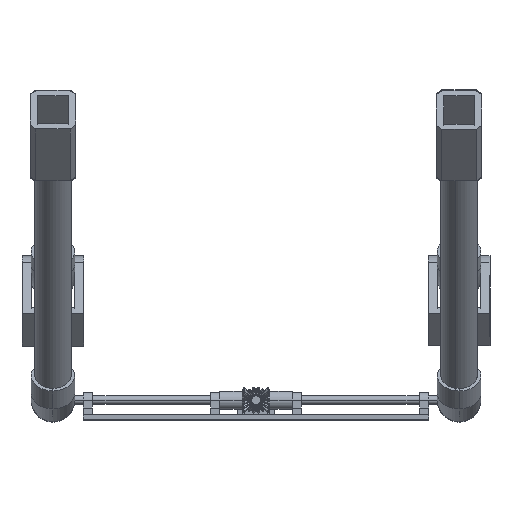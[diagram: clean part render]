
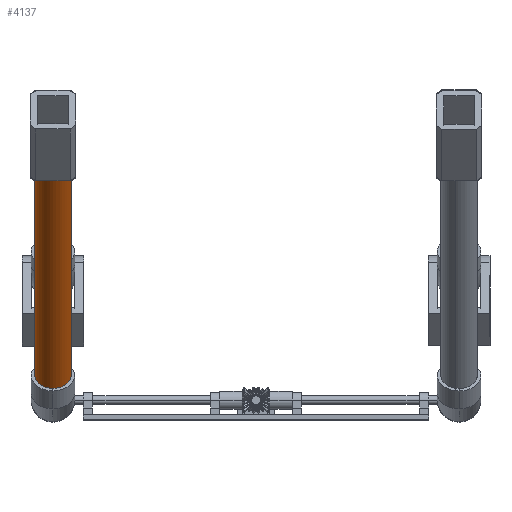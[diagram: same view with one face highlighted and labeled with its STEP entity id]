
A CAD part, top view. The second image highlights one B-rep face of the part: STEP entity #4137.
In plain terms, the highlighted cylindrical face has radius 25.4 mm (diameter 50.8 mm), a partial arc.
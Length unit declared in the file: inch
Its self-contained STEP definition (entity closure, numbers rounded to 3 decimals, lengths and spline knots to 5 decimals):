
#97 = EDGE_CURVE ( 'NONE', #2165, #9560, #5538, .T. ) ;
#471 = DIRECTION ( 'NONE',  ( 0., 0., 1. ) ) ;
#518 = CARTESIAN_POINT ( 'NONE',  ( 0., 0., 1. ) ) ;
#1006 = CARTESIAN_POINT ( 'NONE',  ( 0., 18., 1. ) ) ;
#1413 = ORIENTED_EDGE ( 'NONE', *, *, #97, .T. ) ;
#1491 = VERTEX_POINT ( 'NONE', #7098 ) ;
#2165 = VERTEX_POINT ( 'NONE', #10902 ) ;
#2602 = EDGE_CURVE ( 'NONE', #4722, #9560, #7334, .T. ) ;
#2770 = ORIENTED_EDGE ( 'NONE', *, *, #5477, .T. ) ;
#2821 = ORIENTED_EDGE ( 'NONE', *, *, #6804, .F. ) ;
#3964 = CARTESIAN_POINT ( 'NONE',  ( 0., 0., 0. ) ) ;
#4130 = DIRECTION ( 'NONE',  ( 0., -1., 0. ) ) ;
#4137 = ADVANCED_FACE ( 'NONE', ( #5009 ), #6892, .T. ) ;
#4454 = AXIS2_PLACEMENT_3D ( 'NONE', #7919, #10690, #5247 ) ;
#4722 = VERTEX_POINT ( 'NONE', #4853 ) ;
#4853 = CARTESIAN_POINT ( 'NONE',  ( 0., 18., 1. ) ) ;
#5009 = FACE_OUTER_BOUND ( 'NONE', #5532, .T. ) ;
#5247 = DIRECTION ( 'NONE',  ( 0., 0., 1. ) ) ;
#5477 = EDGE_CURVE ( 'NONE', #1491, #2165, #6643, .T. ) ;
#5532 = EDGE_LOOP ( 'NONE', ( #8180, #2821, #2770, #1413 ) ) ;
#5538 = CIRCLE ( 'NONE', #8769, 1. ) ;
#5715 = DIRECTION ( 'NONE',  ( 0., 1., 0. ) ) ;
#6612 = DIRECTION ( 'NONE',  ( 0., -1., 0. ) ) ;
#6643 = LINE ( 'NONE', #7593, #10109 ) ;
#6804 = EDGE_CURVE ( 'NONE', #1491, #4722, #7264, .T. ) ;
#6892 = CYLINDRICAL_SURFACE ( 'NONE', #11468, 1. ) ;
#7098 = CARTESIAN_POINT ( 'NONE',  ( 0., 18., -1. ) ) ;
#7264 = CIRCLE ( 'NONE', #4454, 1. ) ;
#7334 = LINE ( 'NONE', #1006, #8085 ) ;
#7412 = DIRECTION ( 'NONE',  ( 0., -1., 0. ) ) ;
#7593 = CARTESIAN_POINT ( 'NONE',  ( 0., 18., -1. ) ) ;
#7919 = CARTESIAN_POINT ( 'NONE',  ( 0., 18., 0. ) ) ;
#8085 = VECTOR ( 'NONE', #6612, 39.37008 ) ;
#8180 = ORIENTED_EDGE ( 'NONE', *, *, #2602, .F. ) ;
#8616 = CARTESIAN_POINT ( 'NONE',  ( 0., 18., 0. ) ) ;
#8769 = AXIS2_PLACEMENT_3D ( 'NONE', #3964, #5715, #471 ) ;
#9560 = VERTEX_POINT ( 'NONE', #518 ) ;
#10109 = VECTOR ( 'NONE', #7412, 39.37008 ) ;
#10515 = DIRECTION ( 'NONE',  ( 0., 0., -1. ) ) ;
#10690 = DIRECTION ( 'NONE',  ( 0., 1., 0. ) ) ;
#10902 = CARTESIAN_POINT ( 'NONE',  ( 0., 0., -1. ) ) ;
#11468 = AXIS2_PLACEMENT_3D ( 'NONE', #8616, #4130, #10515 ) ;
